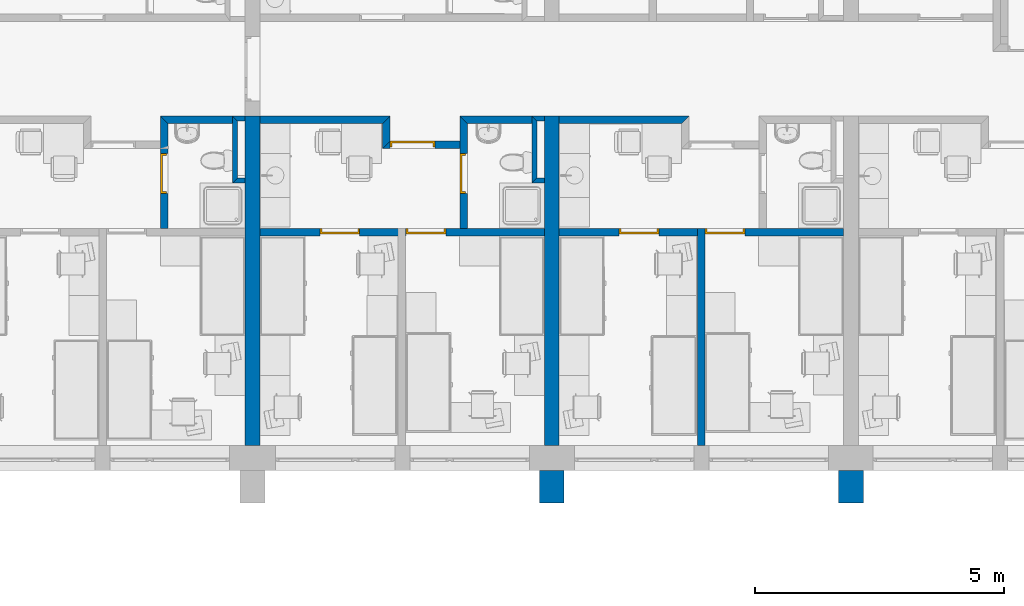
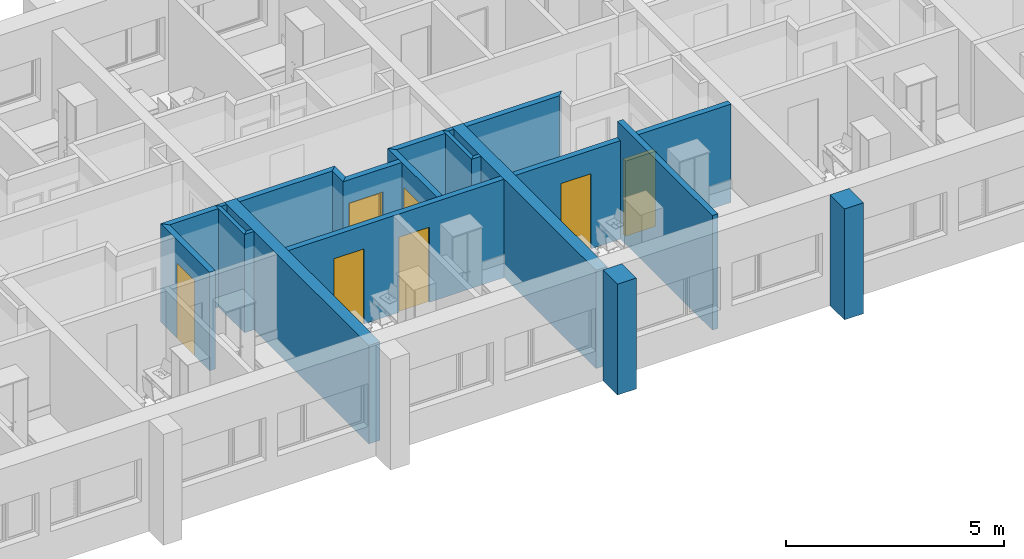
# One storey, part 6 of 172: 21 walls, 7 doors, 7 openings.
"""IFC2X3 building model written with IfcOpenShell, lengths in millimetres."""

from ifc_helpers import new_model, entity, si_unit, converted_unit, money_unit, direction, frame, origin_with_axes, place, context, subcontext, project, spatial, polyline, outline, extrude, faceted_brep, source, transform, mapped, material, material_list, layer, layer_set, layer_usage, type_object, element, fill, save


model = new_model("IFC2X3")

# Units and contexts
model_context = context("Model", 3, precision=1e-05, world=origin_with_axes(), true_north=direction((0.0, 1.0)))
body_context = subcontext(model_context, "Body", "Model", "MODEL_VIEW")
ifc_project = project(units=[si_unit("LENGTHUNIT", "METRE", prefix="MILLI"), si_unit("AREAUNIT", "SQUARE_METRE"), si_unit("VOLUMEUNIT", "CUBIC_METRE"), converted_unit("PLANEANGLEUNIT", "DEGREE", entity("IfcPlaneAngleMeasure", 0.0174532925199), si_unit("PLANEANGLEUNIT", "RADIAN"), dimensions=[0, 0, 0, 0, 0, 0, 0]), si_unit("SOLIDANGLEUNIT", "STERADIAN"), money_unit("USD"), converted_unit("TIMEUNIT", "Year", entity("IfcTimeMeasure", 31556926.0), si_unit("TIMEUNIT", "SECOND"), dimensions=[0, 0, 0, 0, 0, 0, 0]), si_unit("MASSUNIT", "GRAM"), si_unit("THERMODYNAMICTEMPERATUREUNIT", "DEGREE_CELSIUS"), si_unit("LUMINOUSINTENSITYUNIT", "LUMEN")], contexts=[model_context])

# Site, building, storey
site_placement = place(None, origin_with_axes())
site = spatial("IfcSite", under=ifc_project, at=site_placement, Name="Site", CompositionType="ELEMENT")
building_placement = place(site_placement, origin_with_axes())
building = spatial("IfcBuilding", under=site, at=building_placement, Name="Building", CompositionType="ELEMENT")
storey_placement = place(building_placement, frame((0.0, 0.0, 3200.0), z_axis=(0.0, 0.0, 1.0), x_axis=(1.0, 0.0, 0.0)))
storey = spatial("IfcBuildingStorey", under=building, at=storey_placement, Name="3KORRUS", CompositionType="ELEMENT", Elevation=3200.0)

# Walls
ifc_material_1 = material(Name="Olemasolevad seinad tellis, uus viimistlus")
ifc_layer_1 = layer(ifc_material_1, 500.0, ventilated="UNKNOWN")
ifc_layer_set_1 = layer_set([ifc_layer_1], Name="Olemasolevad seinad tellis, uus viimistlus 500")
ifc_layer_usage_1 = layer_usage(ifc_layer_set_1, "AXIS2", "POSITIVE", -100.0)
wall_type_1 = type_object("IfcWallType", Name="Olemasolevad seinad tellis, uus viimistlus 500", PredefinedType="NOTDEFINED")
wall_1_placement = place(storey_placement, frame((-29990.2967033, -20796.6419407, 0.0), z_axis=(0.0, 0.0, 1.0), x_axis=(0.0, 1.0, 0.0)))
element("IfcWallStandardCase", 1, at=wall_1_placement, inside=storey, type_object=wall_type_1, material=ifc_layer_usage_1, Name="VS1", ObjectType="VS1", context=body_context, shape_type="SweptSolid", body=[
    extrude(outline(polyline([(0.0, -100.0), (657.402041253, -100.0), (657.402041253, 400.0), (0.0, 400.0), (0.0, -100.0)])), origin_with_axes(), (0.0, 0.0, 1.0), 3100.0),
])
ifc_layer_usage_2 = layer_usage(ifc_layer_set_1, "AXIS2", "POSITIVE", -100.0)
wall_2_placement = place(storey_placement, frame((-23990.2967033, -20796.6419407, 0.0), z_axis=(0.0, 0.0, 1.0), x_axis=(0.0, 1.0, 0.0)))
element("IfcWallStandardCase", 2, at=wall_2_placement, inside=storey, type_object=wall_type_1, material=ifc_layer_usage_2, Name="VS1", ObjectType="VS1", context=body_context, shape_type="SweptSolid", body=[
    extrude(outline(polyline([(0.0, -100.0), (657.402041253, -100.0), (657.402041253, 400.0), (0.0, 400.0), (0.0, -100.0)])), origin_with_axes(), (0.0, 0.0, 1.0), 3100.0),
])

# Wall, opening, door
ifc_material_2 = material(Name="UmbKipsplaat")
ifc_layer_2 = layer(ifc_material_2, 13.0, ventilated="UNKNOWN")
ifc_layer_3 = layer(ifc_material_2, 13.0, ventilated="UNKNOWN")
ifc_material_3 = material(Name="SOOJUSTUS MINERAALVILL")
ifc_layer_4 = layer(ifc_material_3, 98.0, ventilated="UNKNOWN")
ifc_layer_5 = layer(ifc_material_2, 13.0, ventilated="UNKNOWN")
ifc_layer_6 = layer(ifc_material_2, 13.0, ventilated="UNKNOWN")
ifc_layer_set_2 = layer_set([ifc_layer_2, ifc_layer_3, ifc_layer_4, ifc_layer_5, ifc_layer_6], Name="kipssein150")
ifc_layer_usage_3 = layer_usage(ifc_layer_set_2, "AXIS2", "POSITIVE", -150.0)
wall_type_2 = type_object("IfcWallType", Name="kipssein150 150", PredefinedType="NOTDEFINED")
wall_3_placement = place(storey_placement, frame((-37984.201689, -15289.2398994, 0.0), z_axis=(0.0, 0.0, 1.0), x_axis=(0.0, 1.0, 0.0)))
wall_3 = element("IfcWallStandardCase", 3, at=wall_3_placement, inside=storey, type_object=wall_type_2, material=ifc_layer_usage_3, Name="SS1", ObjectType="SS1", context=body_context, shape_type="SweptSolid", body=[
    extrude(outline(polyline([(0.0, -150.0), (2099.8693268, -150.0), (2249.8693268, 0.0), (0.0, 0.0), (0.0, -150.0)])), origin_with_axes(), (0.0, 0.0, 1.0), 2750.0),
])
opening_1_placement = place(wall_3_placement, frame((1099.78749111, 0.0, 0.0), z_axis=(0.0, 0.0, 1.0), x_axis=(1.0, 0.0, 0.0)))
opening_1 = element("IfcOpeningElement", 4, at=opening_1_placement, cuts=wall_3, Name="SU3-2", context=body_context, shape_type="SweptSolid", body=[
    extrude(outline(polyline([(-400.0, -2100.0), (400.0, -2100.0), (400.0, 0.0), (-400.0, 0.0), (-400.0, -2100.0)])), frame((0.0, -150.0, 0.0), z_axis=(0.0, 1.0, 0.0), x_axis=(1.0, 0.0, 0.0)), (0.0, 0.0, 1.0), 450.0),
])
ifc_material_4 = material(Name="Background")
ifc_material_list = material_list([ifc_material_4])
door_style_1 = type_object("IfcDoorStyle", Name="Door 19", ConstructionType="NOTDEFINED", OperationType="SINGLE_SWING_RIGHT", ParameterTakesPrecedence=False, Sizeable=False)
shared_shape_1 = source(origin_with_axes(), body_context, "Body", "Brep", [
    faceted_brep([(-360.0, -40.0, 0.0), (-360.0, -40.0, 2060.0), (-360.0, -115.0, 2060.0), (-360.0, -115.0, 0.0), (-372.0, -40.0, 2060.0), (-372.0, -40.0, 0.0), (-372.0, 0.0, 2060.0), (-400.0, 0.0, 2060.0), (-400.0, -115.0, 2060.0), (-400.0, -115.0, 0.0), (-400.0, 0.0, 0.0), (-372.0, 0.0, 0.0)], [[[0, 1, 2, 3]], [[4, 1, 0, 5]], [[4, 6, 7, 8, 2, 1]], [[2, 8, 9, 3]], [[5, 0, 3, 9, 10, 11]], [[6, 4, 5, 11]], [[6, 11, 10, 7]], [[9, 8, 7, 10]]]),
    faceted_brep([(372.0, -40.0, 2060.0), (360.0, -40.0, 2060.0), (360.0, -115.0, 2060.0), (400.0, -115.0, 2060.0), (400.0, 0.0, 2060.0), (372.0, 0.0, 2060.0), (372.0, -40.0, 0.0), (360.0, -40.0, 0.0), (360.0, -115.0, 0.0), (400.0, -115.0, 0.0), (400.0, 0.0, 0.0), (372.0, 0.0, 0.0)], [[[0, 1, 2, 3, 4, 5]], [[1, 0, 6, 7]], [[1, 7, 8, 2]], [[2, 8, 9, 3]], [[3, 9, 10, 4]], [[11, 5, 4, 10]], [[0, 5, 11, 6]], [[6, 11, 10, 9, 8, 7]]]),
    faceted_brep([(-372.0, 0.0, 2072.0), (-372.0, 0.0, 2060.0), (-400.0, 0.0, 2060.0), (-400.0, 0.0, 2100.0), (400.0, 0.0, 2100.0), (400.0, 0.0, 2060.0), (372.0, 0.0, 2060.0), (372.0, 0.0, 2072.0), (-372.0, -40.0, 2072.0), (-372.0, -40.0, 2060.0), (-360.0, -40.0, 2060.0), (-360.0, -115.0, 2060.0), (-400.0, -115.0, 2060.0), (-400.0, -115.0, 2100.0), (400.0, -115.0, 2100.0), (400.0, -115.0, 2060.0), (372.0, -40.0, 2060.0), (360.0, -115.0, 2060.0), (360.0, -40.0, 2060.0), (372.0, -40.0, 2072.0)], [[[0, 1, 2, 3, 4, 5, 6, 7]], [[1, 0, 8, 9]], [[9, 10, 11, 12, 2, 1]], [[12, 13, 3, 2]], [[13, 14, 4, 3]], [[14, 15, 5, 4]], [[16, 6, 5, 15, 17, 18]], [[7, 6, 16, 19]], [[0, 7, 19, 8]], [[16, 18, 10, 9, 8, 19]], [[10, 18, 17, 11]], [[15, 14, 13, 12, 11, 17]]]),
    faceted_brep([(372.0, 0.0, 0.0), (372.0, -40.0, 0.0), (-372.0, -40.0, 0.0), (-372.0, 0.0, 0.0), (372.0, 0.0, 2072.0), (372.0, -40.0, 2072.0), (-372.0, -40.0, 2072.0), (-372.0, 0.0, 2072.0)], [[[0, 1, 2, 3]], [[4, 5, 1, 0]], [[1, 5, 6, 2]], [[3, 2, 6, 7]], [[0, 3, 7, 4]], [[7, 6, 5, 4]]]),
])
door_1_placement = place(opening_1_placement, frame((-400.0, 0.0, 0.0), z_axis=(0.0, 0.0, 1.0), x_axis=(1.0, 0.0, 0.0)))
door_1 = element("IfcDoor", 5, at=door_1_placement, inside=storey, type_object=door_style_1, material=ifc_material_list, Name="SU3-2", ObjectType="WC-uks", OverallHeight=2100.0, OverallWidth=800.0, context=body_context, shape_type="MappedRepresentation", body=[
    mapped(shared_shape_1, transform((400.0, 0.0, 0.0))),
])
fill(opening_1, door_1)

# Walls
ifc_layer_usage_4 = layer_usage(ifc_layer_set_2, "AXIS2", "POSITIVE", -150.0)
wall_4_placement = place(storey_placement, frame((-37984.201689, -13039.3705726, 0.0), z_axis=(0.0, 0.0, 1.0), x_axis=(1.0, 0.0, 0.0)))
element("IfcWallStandardCase", 6, at=wall_4_placement, inside=storey, type_object=wall_type_2, material=ifc_layer_usage_4, Name="SS1", ObjectType="SS1", context=body_context, shape_type="SweptSolid", body=[
    extrude(outline(polyline([(150.0, -150.0), (1444.19338105, -150.0), (1444.19338105, 0.0), (0.0, 0.0), (150.0, -150.0)])), origin_with_axes(), (0.0, 0.0, 1.0), 2750.0),
])
ifc_layer_usage_5 = layer_usage(ifc_layer_set_2, "AXIS2", "POSITIVE", -150.0)
wall_5_placement = place(storey_placement, frame((-31984.201689, -13039.3705726, 0.0), z_axis=(0.0, 0.0, 1.0), x_axis=(1.0, 0.0, 0.0)))
element("IfcWallStandardCase", 7, at=wall_5_placement, inside=storey, type_object=wall_type_2, material=ifc_layer_usage_5, Name="SS1", ObjectType="SS1", context=body_context, shape_type="SweptSolid", body=[
    extrude(outline(polyline([(150.0, -150.0), (1444.19338105, -150.0), (1444.19338105, 0.0), (0.0, 0.0), (150.0, -150.0)])), origin_with_axes(), (0.0, 0.0, 1.0), 2750.0),
])
ifc_layer_usage_6 = layer_usage(ifc_layer_set_2, "AXIS2", "POSITIVE", -150.0)
wall_6_placement = place(storey_placement, frame((-27215.2967033, -19739.2398994, 0.0), z_axis=(0.0, 0.0, 1.0), x_axis=(0.0, 1.0, 0.0)))
element("IfcWallStandardCase", 8, at=wall_6_placement, inside=storey, type_object=wall_type_2, material=ifc_layer_usage_6, Name="SS1", ObjectType="SS1", context=body_context, shape_type="SweptSolid", body=[
    extrude(outline(polyline([(100.0, -150.0), (4450.0, -150.0), (4450.0, 0.0), (100.0, 0.0), (100.0, -150.0)])), origin_with_axes(), (0.0, 0.0, 1.0), 3200.0),
])
ifc_layer_usage_7 = layer_usage(ifc_layer_set_2, "AXIS2", "POSITIVE", 0.0)
wall_7_placement = place(storey_placement, frame((-33533.8623684, -13039.2398994, 0.0), z_axis=(0.0, 0.0, 1.0), x_axis=(-1.0, 0.0, 0.0)))
element("IfcWallStandardCase", 9, at=wall_7_placement, inside=storey, type_object=wall_type_2, material=ifc_layer_usage_7, Name="SS1", ObjectType="SS1", context=body_context, shape_type="SweptSolid", body=[
    extrude(outline(polyline([(-150.0, 0.0), (2456.4343349, 0.0), (2456.4343349, 150.0), (0.0, 150.0), (-150.0, 0.0)])), origin_with_axes(), (0.0, 0.0, 1.0), 2750.0),
])

# Wall, openings, doors
ifc_layer_usage_8 = layer_usage(ifc_layer_set_2, "AXIS2", "POSITIVE", -150.0)
wall_8_placement = place(storey_placement, frame((-29990.2967033, -15439.2398994, 0.0), z_axis=(0.0, 0.0, 1.0), x_axis=(-1.0, 0.0, 0.0)))
wall_8 = element("IfcWallStandardCase", 10, at=wall_8_placement, inside=storey, type_object=wall_type_2, material=ifc_layer_usage_8, Name="SS1", ObjectType="SS1", context=body_context, shape_type="SweptSolid", body=[
    extrude(outline(polyline([(300.0, -150.0), (6000.0, -150.0), (6000.0, 0.0), (300.0, 0.0), (300.0, -150.0)])), origin_with_axes(), (0.0, 0.0, 1.0), 2750.0),
])
opening_2_placement = place(wall_8_placement, frame((4400.0, 0.0, 0.0), z_axis=(0.0, 0.0, 1.0), x_axis=(1.0, 0.0, 0.0)))
opening_2 = element("IfcOpeningElement", 11, at=opening_2_placement, cuts=wall_8, Name="SU3-5", context=body_context, shape_type="SweptSolid", body=[
    extrude(outline(polyline([(-400.0, 0.0), (400.0, 0.0), (400.0, 2100.0), (-400.0, 2100.0), (-400.0, 0.0)])), frame((0.0, 150.0, 0.0), z_axis=(0.0, 1.0, 0.0), x_axis=(-1.0, 0.0, 0.0)), (0.0, 0.0, -1.0), 450.0),
])
opening_3_placement = place(wall_8_placement, frame((2675.0, 0.0, 0.0), z_axis=(0.0, 0.0, 1.0), x_axis=(1.0, 0.0, 0.0)))
opening_3 = element("IfcOpeningElement", 12, at=opening_3_placement, cuts=wall_8, Name="SU3-4", context=body_context, shape_type="SweptSolid", body=[
    extrude(outline(polyline([(-400.0, 0.0), (400.0, 0.0), (400.0, 2100.0), (-400.0, 2100.0), (-400.0, 0.0)])), frame((0.0, 150.0, 0.0), z_axis=(0.0, -1.0, 0.0), x_axis=(1.0, 0.0, 0.0)), (0.0, 0.0, 1.0), 450.0),
])
door_style_2 = type_object("IfcDoorStyle", Name="Door 19", ConstructionType="NOTDEFINED", OperationType="SINGLE_SWING_LEFT", ParameterTakesPrecedence=False, Sizeable=False)
shared_shape_2 = source(origin_with_axes(), body_context, "Body", "Brep", [
    faceted_brep([(360.0, -75.0, 0.0), (360.0, -150.0, 0.0), (360.0, -150.0, 2060.0), (360.0, -75.0, 2060.0), (372.0, -75.0, 0.0), (372.0, -35.0, 0.0), (400.0, -35.0, 0.0), (400.0, -150.0, 0.0), (400.0, -150.0, 2060.0), (372.0, -75.0, 2060.0), (400.0, -35.0, 2060.0), (372.0, -35.0, 2060.0)], [[[0, 1, 2, 3]], [[4, 5, 6, 7, 1, 0]], [[2, 1, 7, 8]], [[9, 3, 2, 8, 10, 11]], [[9, 4, 0, 3]], [[11, 5, 4, 9]], [[11, 10, 6, 5]], [[7, 6, 10, 8]]]),
    faceted_brep([(-372.0, -75.0, 2060.0), (-372.0, -35.0, 2060.0), (-400.0, -35.0, 2060.0), (-400.0, -150.0, 2060.0), (-360.0, -150.0, 2060.0), (-360.0, -75.0, 2060.0), (-372.0, -75.0, 0.0), (-372.0, -35.0, 0.0), (-400.0, -35.0, 0.0), (-400.0, -150.0, 0.0), (-360.0, -150.0, 0.0), (-360.0, -75.0, 0.0)], [[[0, 1, 2, 3, 4, 5]], [[0, 6, 7, 1]], [[7, 8, 2, 1]], [[3, 2, 8, 9]], [[4, 3, 9, 10]], [[5, 4, 10, 11]], [[5, 11, 6, 0]], [[6, 11, 10, 9, 8, 7]]]),
    faceted_brep([(372.0, -35.0, 2072.0), (-372.0, -35.0, 2072.0), (-372.0, -35.0, 2060.0), (-400.0, -35.0, 2060.0), (-400.0, -35.0, 2100.0), (400.0, -35.0, 2100.0), (400.0, -35.0, 2060.0), (372.0, -35.0, 2060.0), (372.0, -75.0, 2072.0), (-372.0, -75.0, 2072.0), (-372.0, -75.0, 2060.0), (-360.0, -75.0, 2060.0), (-360.0, -150.0, 2060.0), (-400.0, -150.0, 2060.0), (-400.0, -150.0, 2100.0), (400.0, -150.0, 2100.0), (400.0, -150.0, 2060.0), (372.0, -75.0, 2060.0), (360.0, -150.0, 2060.0), (360.0, -75.0, 2060.0)], [[[0, 1, 2, 3, 4, 5, 6, 7]], [[0, 8, 9, 1]], [[1, 9, 10, 2]], [[10, 11, 12, 13, 3, 2]], [[14, 4, 3, 13]], [[15, 5, 4, 14]], [[16, 6, 5, 15]], [[17, 7, 6, 16, 18, 19]], [[7, 17, 8, 0]], [[10, 9, 8, 17, 19, 11]], [[19, 18, 12, 11]], [[13, 12, 18, 16, 15, 14]]]),
    faceted_brep([(-372.0, -35.0, 0.0), (372.0, -35.0, 0.0), (372.0, -75.0, 0.0), (-372.0, -75.0, 0.0), (-372.0, -35.0, 2072.0), (372.0, -35.0, 2072.0), (372.0, -75.0, 2072.0), (-372.0, -75.0, 2072.0)], [[[0, 1, 2, 3]], [[0, 4, 5, 1]], [[1, 5, 6, 2]], [[3, 2, 6, 7]], [[4, 0, 3, 7]], [[5, 4, 7, 6]]]),
])
door_2_placement = place(opening_2_placement, frame((-400.0, 0.0, 0.0), z_axis=(0.0, 0.0, 1.0), x_axis=(1.0, 0.0, 0.0)))
door_2 = element("IfcDoor", 13, at=door_2_placement, inside=storey, type_object=door_style_2, material=ifc_material_list, Name="SU3-5", ObjectType="Toa uks", OverallHeight=2100.0, OverallWidth=800.0, context=body_context, shape_type="MappedRepresentation", body=[
    mapped(shared_shape_2, transform((400.0, 0.0, 0.0))),
])
fill(opening_2, door_2)
door_style_3 = type_object("IfcDoorStyle", Name="Door 19", ConstructionType="NOTDEFINED", OperationType="SINGLE_SWING_RIGHT", ParameterTakesPrecedence=False, Sizeable=False)
shared_shape_3 = source(origin_with_axes(), body_context, "Body", "Brep", [
    faceted_brep([(-360.0, -75.0, 0.0), (-360.0, -75.0, 2060.0), (-360.0, -150.0, 2060.0), (-360.0, -150.0, 0.0), (-372.0, -75.0, 2060.0), (-372.0, -75.0, 0.0), (-372.0, -35.0, 2060.0), (-400.0, -35.0, 2060.0), (-400.0, -150.0, 2060.0), (-400.0, -150.0, 0.0), (-400.0, -35.0, 0.0), (-372.0, -35.0, 0.0)], [[[0, 1, 2, 3]], [[4, 1, 0, 5]], [[4, 6, 7, 8, 2, 1]], [[2, 8, 9, 3]], [[5, 0, 3, 9, 10, 11]], [[6, 4, 5, 11]], [[6, 11, 10, 7]], [[9, 8, 7, 10]]]),
    faceted_brep([(372.0, -75.0, 2060.0), (360.0, -75.0, 2060.0), (360.0, -150.0, 2060.0), (400.0, -150.0, 2060.0), (400.0, -35.0, 2060.0), (372.0, -35.0, 2060.0), (372.0, -75.0, 0.0), (360.0, -75.0, 0.0), (360.0, -150.0, 0.0), (400.0, -150.0, 0.0), (400.0, -35.0, 0.0), (372.0, -35.0, 0.0)], [[[0, 1, 2, 3, 4, 5]], [[1, 0, 6, 7]], [[1, 7, 8, 2]], [[2, 8, 9, 3]], [[3, 9, 10, 4]], [[11, 5, 4, 10]], [[0, 5, 11, 6]], [[6, 11, 10, 9, 8, 7]]]),
    faceted_brep([(-372.0, -35.0, 2072.0), (-372.0, -35.0, 2060.0), (-400.0, -35.0, 2060.0), (-400.0, -35.0, 2100.0), (400.0, -35.0, 2100.0), (400.0, -35.0, 2060.0), (372.0, -35.0, 2060.0), (372.0, -35.0, 2072.0), (-372.0, -75.0, 2072.0), (-372.0, -75.0, 2060.0), (-360.0, -75.0, 2060.0), (-360.0, -150.0, 2060.0), (-400.0, -150.0, 2060.0), (-400.0, -150.0, 2100.0), (400.0, -150.0, 2100.0), (400.0, -150.0, 2060.0), (372.0, -75.0, 2060.0), (360.0, -150.0, 2060.0), (360.0, -75.0, 2060.0), (372.0, -75.0, 2072.0)], [[[0, 1, 2, 3, 4, 5, 6, 7]], [[1, 0, 8, 9]], [[9, 10, 11, 12, 2, 1]], [[12, 13, 3, 2]], [[13, 14, 4, 3]], [[14, 15, 5, 4]], [[16, 6, 5, 15, 17, 18]], [[7, 6, 16, 19]], [[0, 7, 19, 8]], [[16, 18, 10, 9, 8, 19]], [[10, 18, 17, 11]], [[15, 14, 13, 12, 11, 17]]]),
    faceted_brep([(372.0, -35.0, 0.0), (372.0, -75.0, 0.0), (-372.0, -75.0, 0.0), (-372.0, -35.0, 0.0), (372.0, -35.0, 2072.0), (372.0, -75.0, 2072.0), (-372.0, -75.0, 2072.0), (-372.0, -35.0, 2072.0)], [[[0, 1, 2, 3]], [[4, 5, 1, 0]], [[1, 5, 6, 2]], [[3, 2, 6, 7]], [[0, 3, 7, 4]], [[7, 6, 5, 4]]]),
])
door_3_placement = place(opening_3_placement, frame((-400.0, 0.0, 0.0), z_axis=(0.0, 0.0, 1.0), x_axis=(1.0, 0.0, 0.0)))
door_3 = element("IfcDoor", 14, at=door_3_placement, inside=storey, type_object=door_style_3, material=ifc_material_list, Name="SU3-4", ObjectType="Toa uks", OverallHeight=2100.0, OverallWidth=800.0, context=body_context, shape_type="MappedRepresentation", body=[
    mapped(shared_shape_3, transform((400.0, 0.0, 0.0))),
])
fill(opening_3, door_3)

# Wall, opening, door
ifc_layer_usage_9 = layer_usage(ifc_layer_set_2, "AXIS2", "POSITIVE", 0.0)
wall_9_placement = place(storey_placement, frame((-31984.201689, -13539.4524083, 0.0), z_axis=(0.0, 0.0, 1.0), x_axis=(-1.0, 0.0, 0.0)))
wall_9 = element("IfcWallStandardCase", 15, at=wall_9_placement, inside=storey, type_object=wall_type_2, material=ifc_layer_usage_9, Name="SS1", ObjectType="SS1", context=body_context, shape_type="SweptSolid", body=[
    extrude(outline(polyline([(0.0, 0.0), (1399.6606794, 0.0), (1549.6606794, 150.0), (0.0, 150.0), (0.0, 0.0)])), origin_with_axes(), (0.0, 0.0, 1.0), 2750.0),
])
opening_4_placement = place(wall_9_placement, frame((949.660679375, 0.0, 0.0), z_axis=(0.0, 0.0, 1.0), x_axis=(1.0, 0.0, 0.0)))
opening_4 = element("IfcOpeningElement", 16, at=opening_4_placement, cuts=wall_9, Name="SU2-6", context=body_context, shape_type="SweptSolid", body=[
    extrude(outline(polyline([(-450.0, -2100.0), (450.0, -2100.0), (450.0, 0.0), (-450.0, 0.0), (-450.0, -2100.0)])), frame((0.0, 150.0, 0.0), z_axis=(0.0, 1.0, 0.0), x_axis=(1.0, 0.0, 0.0)), (0.0, 0.0, -1.0), 450.0),
])
door_style_4 = type_object("IfcDoorStyle", Name="Door 19", ConstructionType="NOTDEFINED", OperationType="SINGLE_SWING_LEFT", ParameterTakesPrecedence=False, Sizeable=False)
shared_shape_4 = source(origin_with_axes(), body_context, "Body", "Brep", [
    faceted_brep([(410.0, -40.0, 0.0), (410.0, -115.0, 0.0), (410.0, -115.0, 2060.0), (410.0, -40.0, 2060.0), (422.0, -40.0, 0.0), (422.0, 0.0, 0.0), (450.0, 0.0, 0.0), (450.0, -115.0, 0.0), (450.0, -115.0, 2060.0), (422.0, -40.0, 2060.0), (450.0, 0.0, 2060.0), (422.0, 0.0, 2060.0)], [[[0, 1, 2, 3]], [[4, 5, 6, 7, 1, 0]], [[2, 1, 7, 8]], [[9, 3, 2, 8, 10, 11]], [[9, 4, 0, 3]], [[11, 5, 4, 9]], [[11, 10, 6, 5]], [[7, 6, 10, 8]]]),
    faceted_brep([(-422.0, -40.0, 2060.0), (-422.0, 0.0, 2060.0), (-450.0, 0.0, 2060.0), (-450.0, -115.0, 2060.0), (-410.0, -115.0, 2060.0), (-410.0, -40.0, 2060.0), (-422.0, -40.0, 0.0), (-422.0, 0.0, 0.0), (-450.0, 0.0, 0.0), (-450.0, -115.0, 0.0), (-410.0, -115.0, 0.0), (-410.0, -40.0, 0.0)], [[[0, 1, 2, 3, 4, 5]], [[0, 6, 7, 1]], [[7, 8, 2, 1]], [[3, 2, 8, 9]], [[4, 3, 9, 10]], [[5, 4, 10, 11]], [[5, 11, 6, 0]], [[6, 11, 10, 9, 8, 7]]]),
    faceted_brep([(422.0, 0.0, 2072.0), (-422.0, 0.0, 2072.0), (-422.0, 0.0, 2060.0), (-450.0, 0.0, 2060.0), (-450.0, 0.0, 2100.0), (450.0, 0.0, 2100.0), (450.0, 0.0, 2060.0), (422.0, 0.0, 2060.0), (422.0, -40.0, 2072.0), (-422.0, -40.0, 2072.0), (-422.0, -40.0, 2060.0), (-410.0, -40.0, 2060.0), (-410.0, -115.0, 2060.0), (-450.0, -115.0, 2060.0), (-450.0, -115.0, 2100.0), (450.0, -115.0, 2100.0), (450.0, -115.0, 2060.0), (422.0, -40.0, 2060.0), (410.0, -115.0, 2060.0), (410.0, -40.0, 2060.0)], [[[0, 1, 2, 3, 4, 5, 6, 7]], [[0, 8, 9, 1]], [[1, 9, 10, 2]], [[10, 11, 12, 13, 3, 2]], [[14, 4, 3, 13]], [[15, 5, 4, 14]], [[16, 6, 5, 15]], [[17, 7, 6, 16, 18, 19]], [[7, 17, 8, 0]], [[10, 9, 8, 17, 19, 11]], [[19, 18, 12, 11]], [[13, 12, 18, 16, 15, 14]]]),
    faceted_brep([(-422.0, 0.0, 0.0), (422.0, 0.0, 0.0), (422.0, -40.0, 0.0), (-422.0, -40.0, 0.0), (-422.0, 0.0, 2072.0), (422.0, 0.0, 2072.0), (422.0, -40.0, 2072.0), (-422.0, -40.0, 2072.0)], [[[0, 1, 2, 3]], [[0, 4, 5, 1]], [[1, 5, 6, 2]], [[3, 2, 6, 7]], [[4, 0, 3, 7]], [[5, 4, 7, 6]]]),
])
door_4_placement = place(opening_4_placement, frame((450.0, 0.0, 0.0), z_axis=(0.0, 0.0, 1.0), x_axis=(-1.0, 0.0, 0.0)))
door_4 = element("IfcDoor", 17, at=door_4_placement, inside=storey, type_object=door_style_4, material=ifc_material_list, Name="SU2-6", ObjectType="Korteri välisuks", OverallHeight=2100.0, OverallWidth=900.0, context=body_context, shape_type="MappedRepresentation", body=[
    mapped(shared_shape_4, transform((450.0, 0.0, 0.0))),
])
fill(opening_4, door_4)

ifc_layer_usage_10 = layer_usage(ifc_layer_set_2, "AXIS2", "POSITIVE", -150.0)
wall_10_placement = place(storey_placement, frame((-31984.201689, -15439.2398994, 0.0), z_axis=(0.0, 0.0, 1.0), x_axis=(0.0, 1.0, 0.0)))
wall_10 = element("IfcWallStandardCase", 18, at=wall_10_placement, inside=storey, type_object=wall_type_2, material=ifc_layer_usage_10, Name="SS1", ObjectType="SS1", context=body_context, shape_type="SweptSolid", body=[
    extrude(outline(polyline([(150.0, -150.0), (2249.8693268, -150.0), (2399.8693268, 0.0), (150.0, 0.0), (150.0, -150.0)])), origin_with_axes(), (0.0, 0.0, 1.0), 2750.0),
])
opening_5_placement = place(wall_10_placement, frame((1249.78749111, 0.0, 0.0), z_axis=(0.0, 0.0, 1.0), x_axis=(1.0, 0.0, 0.0)))
opening_5 = element("IfcOpeningElement", 19, at=opening_5_placement, cuts=wall_10, Name="SU3-2", context=body_context, shape_type="SweptSolid", body=[
    extrude(outline(polyline([(-400.0, -2100.0), (400.0, -2100.0), (400.0, 0.0), (-400.0, 0.0), (-400.0, -2100.0)])), frame((0.0, -150.0, 0.0), z_axis=(0.0, 1.0, 0.0), x_axis=(1.0, 0.0, 0.0)), (0.0, 0.0, 1.0), 450.0),
])
door_5_placement = place(opening_5_placement, frame((-400.0, 0.0, 0.0), z_axis=(0.0, 0.0, 1.0), x_axis=(1.0, 0.0, 0.0)))
door_5 = element("IfcDoor", 20, at=door_5_placement, inside=storey, type_object=door_style_1, material=ifc_material_list, Name="SU3-2", ObjectType="WC-uks", OverallHeight=2100.0, OverallWidth=800.0, context=body_context, shape_type="MappedRepresentation", body=[
    mapped(shared_shape_1, transform((400.0, 0.0, 0.0))),
])
fill(opening_5, door_5)

# Walls
ifc_layer_usage_11 = layer_usage(ifc_layer_set_2, "AXIS2", "POSITIVE", 0.0)
wall_11_placement = place(storey_placement, frame((-33533.8623684, -13039.2398994, 0.0), z_axis=(0.0, 0.0, 1.0), x_axis=(0.0, -1.0, 0.0)))
element("IfcWallStandardCase", 21, at=wall_11_placement, inside=storey, type_object=wall_type_2, material=ifc_layer_usage_11, Name="SS1", ObjectType="SS1", context=body_context, shape_type="SweptSolid", body=[
    extrude(outline(polyline([(150.0, 0.0), (650.2125089, 0.0), (500.2125089, 150.0), (0.0, 150.0), (150.0, 0.0)])), origin_with_axes(), (0.0, 0.0, 1.0), 2750.0),
])
ifc_layer_usage_12 = layer_usage(ifc_layer_set_2, "AXIS2", "POSITIVE", 0.0)
wall_12_placement = place(storey_placement, frame((-27533.8623684, -13039.2398994, 0.0), z_axis=(0.0, 0.0, 1.0), x_axis=(-1.0, 0.0, 0.0)))
element("IfcWallStandardCase", 22, at=wall_12_placement, inside=storey, type_object=wall_type_2, material=ifc_layer_usage_12, Name="SS1", ObjectType="SS1", context=body_context, shape_type="SweptSolid", body=[
    extrude(outline(polyline([(-150.0, 0.0), (2456.4343349, 0.0), (2456.4343349, 150.0), (0.0, 150.0), (-150.0, 0.0)])), origin_with_axes(), (0.0, 0.0, 1.0), 2750.0),
])

# Wall, openings, doors
ifc_layer_usage_13 = layer_usage(ifc_layer_set_2, "AXIS2", "POSITIVE", -150.0)
wall_13_placement = place(storey_placement, frame((-23990.2967033, -15439.2398994, 0.0), z_axis=(0.0, 0.0, 1.0), x_axis=(-1.0, 0.0, 0.0)))
wall_13 = element("IfcWallStandardCase", 23, at=wall_13_placement, inside=storey, type_object=wall_type_2, material=ifc_layer_usage_13, Name="SS1", ObjectType="SS1", context=body_context, shape_type="SweptSolid", body=[
    extrude(outline(polyline([(300.0, -150.0), (6000.0, -150.0), (6000.0, 0.0), (300.0, 0.0), (300.0, -150.0)])), origin_with_axes(), (0.0, 0.0, 1.0), 2750.0),
])
opening_6_placement = place(wall_13_placement, frame((4400.0, 0.0, 0.0), z_axis=(0.0, 0.0, 1.0), x_axis=(1.0, 0.0, 0.0)))
opening_6 = element("IfcOpeningElement", 24, at=opening_6_placement, cuts=wall_13, Name="SU3-5", context=body_context, shape_type="SweptSolid", body=[
    extrude(outline(polyline([(-400.0, 0.0), (400.0, 0.0), (400.0, 2100.0), (-400.0, 2100.0), (-400.0, 0.0)])), frame((0.0, 150.0, 0.0), z_axis=(0.0, 1.0, 0.0), x_axis=(-1.0, 0.0, 0.0)), (0.0, 0.0, -1.0), 450.0),
])
opening_7_placement = place(wall_13_placement, frame((2675.0, 0.0, 0.0), z_axis=(0.0, 0.0, 1.0), x_axis=(1.0, 0.0, 0.0)))
opening_7 = element("IfcOpeningElement", 25, at=opening_7_placement, cuts=wall_13, Name="SU3-4", context=body_context, shape_type="SweptSolid", body=[
    extrude(outline(polyline([(-400.0, 0.0), (400.0, 0.0), (400.0, 2100.0), (-400.0, 2100.0), (-400.0, 0.0)])), frame((0.0, 150.0, 0.0), z_axis=(0.0, -1.0, 0.0), x_axis=(1.0, 0.0, 0.0)), (0.0, 0.0, 1.0), 450.0),
])
door_6_placement = place(opening_6_placement, frame((-400.0, 0.0, 0.0), z_axis=(0.0, 0.0, 1.0), x_axis=(1.0, 0.0, 0.0)))
door_6 = element("IfcDoor", 26, at=door_6_placement, inside=storey, type_object=door_style_2, material=ifc_material_list, Name="SU3-5", ObjectType="Toa uks", OverallHeight=2100.0, OverallWidth=800.0, context=body_context, shape_type="MappedRepresentation", body=[
    mapped(shared_shape_2, transform((400.0, 0.0, 0.0))),
])
fill(opening_6, door_6)
door_7_placement = place(opening_7_placement, frame((-400.0, 0.0, 0.0), z_axis=(0.0, 0.0, 1.0), x_axis=(1.0, 0.0, 0.0)))
door_7 = element("IfcDoor", 27, at=door_7_placement, inside=storey, type_object=door_style_3, material=ifc_material_list, Name="SU3-4", ObjectType="Toa uks", OverallHeight=2100.0, OverallWidth=800.0, context=body_context, shape_type="MappedRepresentation", body=[
    mapped(shared_shape_3, transform((400.0, 0.0, 0.0))),
])
fill(opening_7, door_7)

# Walls
ifc_material_5 = material(Name="Olemasolevad seinad tellis, uus viimistlus")
ifc_layer_7 = layer(ifc_material_5, 300.0, ventilated="UNKNOWN")
ifc_layer_set_3 = layer_set([ifc_layer_7], Name="Olemasolevad seinad tellis, uus viimistlus  300")
ifc_layer_usage_14 = layer_usage(ifc_layer_set_3, "AXIS2", "POSITIVE", 0.0)
wall_type_3 = type_object("IfcWallType", Name="Olemasolevad seinad tellis, uus viimistlus  300", PredefinedType="NOTDEFINED")
wall_14_placement = place(storey_placement, frame((-29990.2967033, -19639.2398994, 0.0), z_axis=(0.0, 0.0, 1.0), x_axis=(0.0, 1.0, 0.0)))
element("IfcWallStandardCase", 28, at=wall_14_placement, inside=storey, type_object=wall_type_3, material=ifc_layer_usage_14, Name="KS1", ObjectType="KS1", context=body_context, shape_type="SweptSolid", body=[
    extrude(outline(polyline([(0.0, 0.0), (6602.86932682, 0.0), (6602.86932682, 300.0), (0.0, 300.0), (0.0, 0.0)])), origin_with_axes(), (0.0, 0.0, 1.0), 2750.0),
])
ifc_layer_usage_15 = layer_usage(ifc_layer_set_3, "AXIS2", "POSITIVE", 0.0)
wall_15_placement = place(storey_placement, frame((-35990.2967033, -19639.2398994, 0.0), z_axis=(0.0, 0.0, 1.0), x_axis=(0.0, 1.0, 0.0)))
element("IfcWallStandardCase", 29, at=wall_15_placement, inside=storey, type_object=wall_type_3, material=ifc_layer_usage_15, Name="KS1", ObjectType="KS1", context=body_context, shape_type="SweptSolid", body=[
    extrude(outline(polyline([(0.0, 0.0), (6602.86932682, 0.0), (6602.86932682, 300.0), (0.0, 300.0), (0.0, 0.0)])), origin_with_axes(), (0.0, 0.0, 1.0), 2750.0),
])
ifc_material_6 = material(Name="krohv")
ifc_layer_8 = layer(ifc_material_6, 2.0, ventilated="UNKNOWN")
ifc_layer_9 = layer(ifc_material_6, 10.0, ventilated="UNKNOWN")
ifc_material_7 = material(Name="Kergplokk")
ifc_layer_10 = layer(ifc_material_7, 76.0, ventilated="UNKNOWN")
ifc_layer_11 = layer(ifc_material_6, 10.0, ventilated="UNKNOWN")
ifc_layer_12 = layer(ifc_material_6, 2.0, ventilated="UNKNOWN")
ifc_layer_set_4 = layer_set([ifc_layer_8, ifc_layer_9, ifc_layer_10, ifc_layer_11, ifc_layer_12], Name="Kergplokk Bauroc 100")
ifc_layer_usage_16 = layer_usage(ifc_layer_set_4, "AXIS2", "POSITIVE", -100.0)
wall_type_4 = type_object("IfcWallType", Name="Kergplokk Bauroc 100 100", PredefinedType="NOTDEFINED")
wall_16_placement = place(storey_placement, frame((-30440.008308, -13039.3705726, 0.0), z_axis=(0.0, 0.0, 1.0), x_axis=(0.0, -1.0, 0.0)))
element("IfcWallStandardCase", 30, at=wall_16_placement, inside=storey, type_object=wall_type_4, material=ifc_layer_usage_16, Name="SS2", ObjectType="SS2", context=body_context, shape_type="SweptSolid", body=[
    extrude(outline(polyline([(0.0, -100.0), (1341.1010536, -100.0), (1241.1010536, 0.0), (100.0, 0.0), (0.0, -100.0)])), origin_with_axes(), (0.0, 0.0, 1.0), 2750.0),
])
ifc_layer_usage_17 = layer_usage(ifc_layer_set_4, "AXIS2", "POSITIVE", -100.0)
wall_17_placement = place(storey_placement, frame((-36440.008308, -13039.3705726, 0.0), z_axis=(0.0, 0.0, 1.0), x_axis=(1.0, 0.0, 0.0)))
element("IfcWallStandardCase", 31, at=wall_17_placement, inside=storey, type_object=wall_type_4, material=ifc_layer_usage_17, Name="SS2", ObjectType="SS2", context=body_context, shape_type="SweptSolid", body=[
    extrude(outline(polyline([(0.0, -100.0), (149.711604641, -100.0), (149.711604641, 0.0), (-100.0, 0.0), (0.0, -100.0)])), origin_with_axes(), (0.0, 0.0, 1.0), 2750.0),
])
ifc_layer_usage_18 = layer_usage(ifc_layer_set_4, "AXIS2", "POSITIVE", -100.0)
wall_18_placement = place(storey_placement, frame((-36290.2967033, -14380.4716262, 0.0), z_axis=(0.0, 0.0, 1.0), x_axis=(-1.0, 0.0, 0.0)))
element("IfcWallStandardCase", 32, at=wall_18_placement, inside=storey, type_object=wall_type_4, material=ifc_layer_usage_18, Name="SS2", ObjectType="SS2", context=body_context, shape_type="SweptSolid", body=[
    extrude(outline(polyline([(0.0, -100.0), (149.7116047, -100.0), (249.7116047, 0.0), (0.0, 0.0), (0.0, -100.0)])), origin_with_axes(), (0.0, 0.0, 1.0), 2750.0),
])
ifc_layer_usage_19 = layer_usage(ifc_layer_set_4, "AXIS2", "POSITIVE", -100.0)
wall_19_placement = place(storey_placement, frame((-30290.2967033, -14380.4716262, 0.0), z_axis=(0.0, 0.0, 1.0), x_axis=(-1.0, 0.0, 0.0)))
element("IfcWallStandardCase", 33, at=wall_19_placement, inside=storey, type_object=wall_type_4, material=ifc_layer_usage_19, Name="SS2", ObjectType="SS2", context=body_context, shape_type="SweptSolid", body=[
    extrude(outline(polyline([(0.0, -100.0), (149.7116047, -100.0), (249.7116047, 0.0), (0.0, 0.0), (0.0, -100.0)])), origin_with_axes(), (0.0, 0.0, 1.0), 2750.0),
])
ifc_layer_usage_20 = layer_usage(ifc_layer_set_4, "AXIS2", "POSITIVE", -100.0)
wall_20_placement = place(storey_placement, frame((-30440.008308, -13039.3705726, 0.0), z_axis=(0.0, 0.0, 1.0), x_axis=(1.0, 0.0, 0.0)))
element("IfcWallStandardCase", 34, at=wall_20_placement, inside=storey, type_object=wall_type_4, material=ifc_layer_usage_20, Name="SS2", ObjectType="SS2", context=body_context, shape_type="SweptSolid", body=[
    extrude(outline(polyline([(0.0, -100.0), (149.711604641, -100.0), (149.711604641, 0.0), (-100.0, 0.0), (0.0, -100.0)])), origin_with_axes(), (0.0, 0.0, 1.0), 2750.0),
])
ifc_layer_usage_21 = layer_usage(ifc_layer_set_4, "AXIS2", "POSITIVE", -100.0)
wall_21_placement = place(storey_placement, frame((-36440.008308, -13039.3705726, 0.0), z_axis=(0.0, 0.0, 1.0), x_axis=(0.0, -1.0, 0.0)))
element("IfcWallStandardCase", 35, at=wall_21_placement, inside=storey, type_object=wall_type_4, material=ifc_layer_usage_21, Name="SS2", ObjectType="SS2", context=body_context, shape_type="SweptSolid", body=[
    extrude(outline(polyline([(0.0, -100.0), (1341.1010536, -100.0), (1241.1010536, 0.0), (100.0, 0.0), (0.0, -100.0)])), origin_with_axes(), (0.0, 0.0, 1.0), 2750.0),
])

save(model, "model.ifc")
